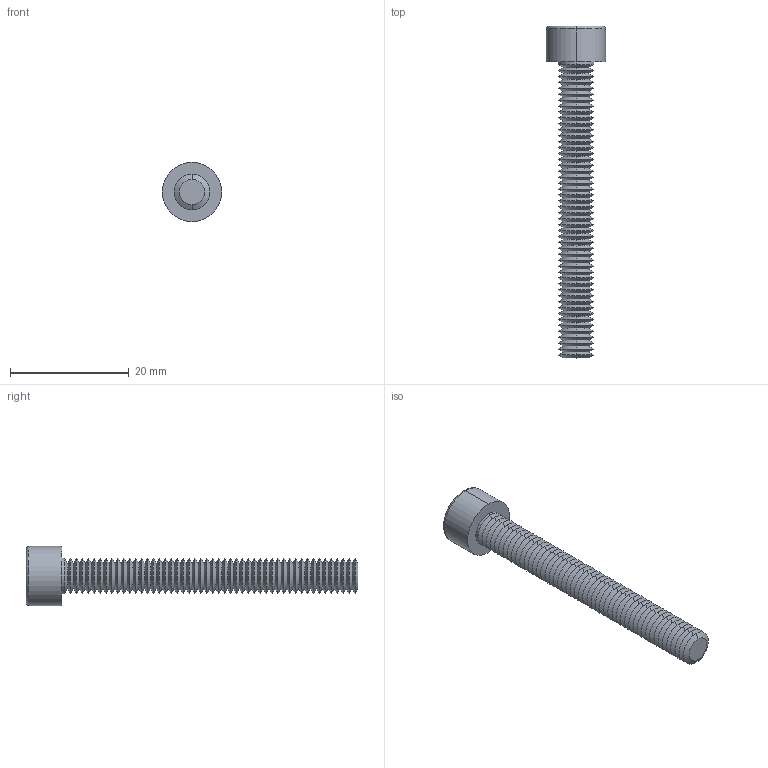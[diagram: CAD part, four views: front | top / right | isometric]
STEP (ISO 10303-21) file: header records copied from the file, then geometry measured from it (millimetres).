
FILE_DESCRIPTION (( 'STEP AP203' ), '1' );
FILE_NAME ('91N.060.0500.step', '2025-05-20T08:53:25', ( '' ), ( '' ), 'SwSTEP 2.0', 'SolidWorks 2019', '' );
FILE_SCHEMA (( 'CONFIG_CONTROL_DESIGN' ));
Length unit declared in the file: millimetre
Products named in the file (1): 91N.060.0500
Bounding box: 10 x 56 x 10 mm (x, y, z)
Volume: 1400.3 mm3; surface area: 2019.6 mm2
Topology: 1 solids, 1 shells, 228 faces, 455 edges, 229 vertices
Faces by surface type: cone 207, plane 15, cylinder 4, torus 2
Entity records: 5778 total; most frequent: DIRECTION 1127, CARTESIAN_POINT 938, ORIENTED_EDGE 906, EDGE_CURVE 453, AXIS2_PLACEMENT_3D 452, EDGE_LOOP 230, VERTEX_POINT 229, FACE_OUTER_BOUND 228
